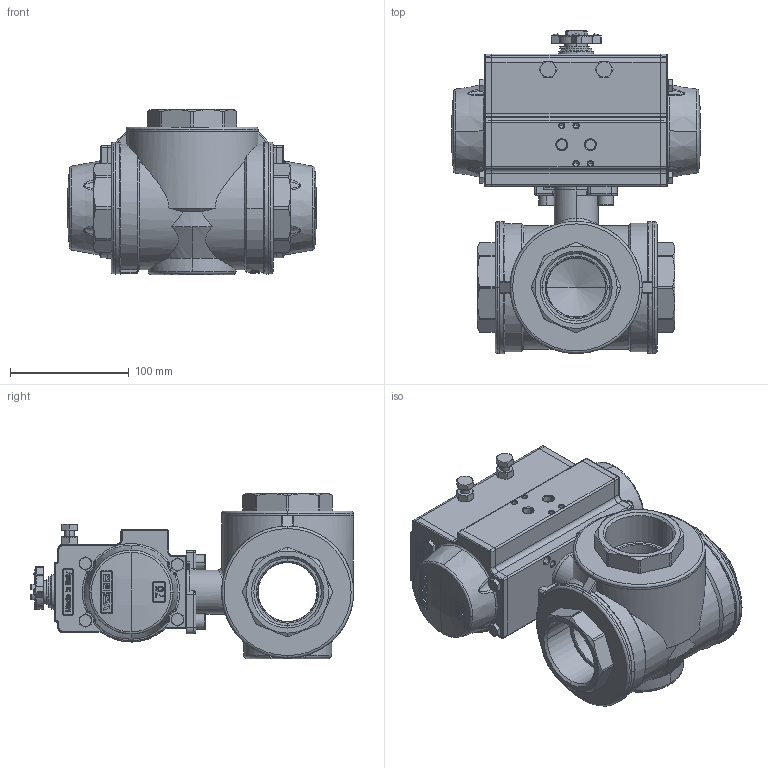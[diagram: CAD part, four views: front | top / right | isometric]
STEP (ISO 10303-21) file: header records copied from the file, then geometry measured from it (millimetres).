
FILE_DESCRIPTION (( 'STEP AP214' ), '1' );
FILE_NAME ('8P00830010.STEP', '2017-03-13T09:39:43', ( 'Negroni' ), ( 'Hewlett-Packard Company' ), 'SwSTEP 2.0', 'SolidWorks 2015', '' );
FILE_SCHEMA (( 'AUTOMOTIVE_DESIGN' ));
Length unit declared in the file: millimetre
Products named in the file (1): 8P00830010
Bounding box: 209.2 x 271.6 x 139 mm (x, y, z)
Volume: 2768507.6 mm3; surface area: 224124.8 mm2
Topology: 1 solids, 1 shells, 2248 faces, 5970 edges, 3760 vertices
Faces by surface type: plane 1020, bspline 565, cylinder 390, cone 256, torus 12, sphere 5
Entity records: 130217 total; most frequent: CARTESIAN_POINT 67185, ORIENTED_EDGE 11808, DIRECTION 7539, EDGE_CURVE 5904, VERTEX_POINT 3760, AXIS2_PLACEMENT_3D 2606, EDGE_LOOP 2374, LINE 2327
